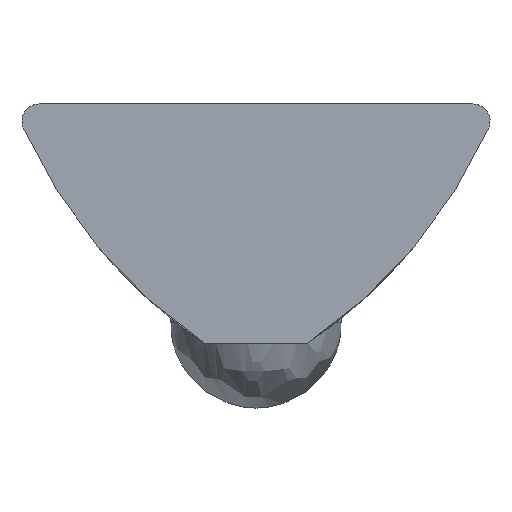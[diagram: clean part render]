
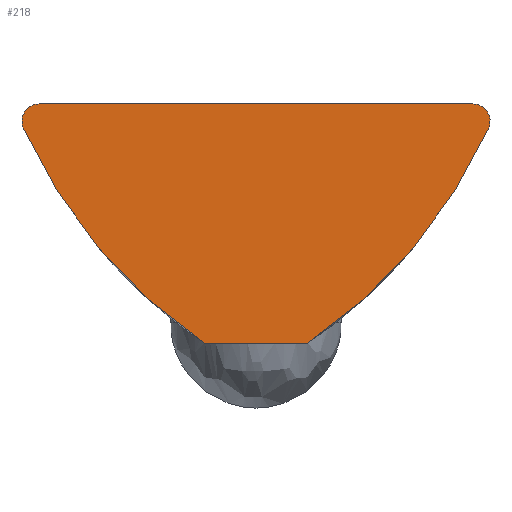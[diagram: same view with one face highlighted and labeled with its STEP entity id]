
A CAD part, left-side view. The second image highlights one B-rep face of the part: STEP entity #218.
In plain terms, the highlighted planar face has unit normal (-1, 0, 0).
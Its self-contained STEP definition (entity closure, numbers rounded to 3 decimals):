
#12 = CIRCLE ( 'NONE', #603, 0.5 ) ;
#30 = EDGE_CURVE ( 'NONE', #855, #271, #12, .T. ) ;
#65 = EDGE_LOOP ( 'NONE', ( #387, #453, #243, #95, #698, #120 ) ) ;
#68 = DIRECTION ( 'NONE',  ( 0., 0., 1. ) ) ;
#95 = ORIENTED_EDGE ( 'NONE', *, *, #277, .F. ) ;
#120 = ORIENTED_EDGE ( 'NONE', *, *, #700, .T. ) ;
#122 = AXIS2_PLACEMENT_3D ( 'NONE', #514, #822, #409 ) ;
#124 = AXIS2_PLACEMENT_3D ( 'NONE', #748, #734, #165 ) ;
#165 = DIRECTION ( 'NONE',  ( 0., 0., 1. ) ) ;
#171 = EDGE_CURVE ( 'NONE', #755, #315, #960, .T. ) ;
#204 = DIRECTION ( 'NONE',  ( 1., 0., 0. ) ) ;
#212 = CIRCLE ( 'NONE', #817, 15. ) ;
#218 = ADVANCED_FACE ( 'NONE', ( #1043 ), #304, .F. ) ;
#243 = ORIENTED_EDGE ( 'NONE', *, *, #171, .F. ) ;
#271 = VERTEX_POINT ( 'NONE', #910 ) ;
#277 = EDGE_CURVE ( 'NONE', #271, #755, #212, .T. ) ;
#293 = VERTEX_POINT ( 'NONE', #433 ) ;
#296 = EDGE_CURVE ( 'NONE', #933, #293, #552, .T. ) ;
#300 = CARTESIAN_POINT ( 'NONE',  ( -18., 6.35, 0. ) ) ;
#301 = VECTOR ( 'NONE', #636, 1000. ) ;
#304 = PLANE ( 'NONE',  #1072 ) ;
#312 = DIRECTION ( 'NONE',  ( 0., 1., 0. ) ) ;
#315 = VERTEX_POINT ( 'NONE', #837 ) ;
#336 = CARTESIAN_POINT ( 'NONE',  ( -18., 6.876, 5.444 ) ) ;
#387 = ORIENTED_EDGE ( 'NONE', *, *, #296, .F. ) ;
#409 = DIRECTION ( 'NONE',  ( 0., 0., 1. ) ) ;
#411 = DIRECTION ( 'NONE',  ( 0., 0., 1. ) ) ;
#433 = CARTESIAN_POINT ( 'NONE',  ( -18., 6.35, 0. ) ) ;
#453 = ORIENTED_EDGE ( 'NONE', *, *, #834, .F. ) ;
#470 = CARTESIAN_POINT ( 'NONE',  ( -18., -1.5, -7. ) ) ;
#495 = CARTESIAN_POINT ( 'NONE',  ( -18., -6.35, -0.5 ) ) ;
#514 = CARTESIAN_POINT ( 'NONE',  ( -18., 6.35, -0.5 ) ) ;
#552 = CIRCLE ( 'NONE', #122, 0.5 ) ;
#559 = LINE ( 'NONE', #300, #938 ) ;
#561 = CARTESIAN_POINT ( 'NONE',  ( -18., -6.35, -0.5 ) ) ;
#603 = AXIS2_PLACEMENT_3D ( 'NONE', #495, #814, #411 ) ;
#636 = DIRECTION ( 'NONE',  ( 0., 1., 0. ) ) ;
#698 = ORIENTED_EDGE ( 'NONE', *, *, #30, .F. ) ;
#700 = EDGE_CURVE ( 'NONE', #855, #293, #559, .T. ) ;
#734 = DIRECTION ( 'NONE',  ( 1., 0., 0. ) ) ;
#748 = CARTESIAN_POINT ( 'NONE',  ( -18., -6.876, 5.444 ) ) ;
#755 = VERTEX_POINT ( 'NONE', #470 ) ;
#808 = CARTESIAN_POINT ( 'NONE',  ( -18., -6.35, 0. ) ) ;
#813 = DIRECTION ( 'NONE',  ( 1., 0., 0. ) ) ;
#814 = DIRECTION ( 'NONE',  ( 1., 0., 0. ) ) ;
#817 = AXIS2_PLACEMENT_3D ( 'NONE', #336, #813, #68 ) ;
#822 = DIRECTION ( 'NONE',  ( 1., 0., 0. ) ) ;
#834 = EDGE_CURVE ( 'NONE', #315, #933, #917, .T. ) ;
#837 = CARTESIAN_POINT ( 'NONE',  ( -18., 1.5, -7. ) ) ;
#855 = VERTEX_POINT ( 'NONE', #808 ) ;
#910 = CARTESIAN_POINT ( 'NONE',  ( -18., -6.806, -0.705 ) ) ;
#917 = CIRCLE ( 'NONE', #124, 15. ) ;
#933 = VERTEX_POINT ( 'NONE', #944 ) ;
#938 = VECTOR ( 'NONE', #312, 1000. ) ;
#944 = CARTESIAN_POINT ( 'NONE',  ( -18., 6.806, -0.705 ) ) ;
#946 = DIRECTION ( 'NONE',  ( 0., 0., -1. ) ) ;
#960 = LINE ( 'NONE', #1033, #301 ) ;
#1033 = CARTESIAN_POINT ( 'NONE',  ( -18., -6.35, -7. ) ) ;
#1043 = FACE_OUTER_BOUND ( 'NONE', #65, .T. ) ;
#1072 = AXIS2_PLACEMENT_3D ( 'NONE', #561, #204, #946 ) ;
